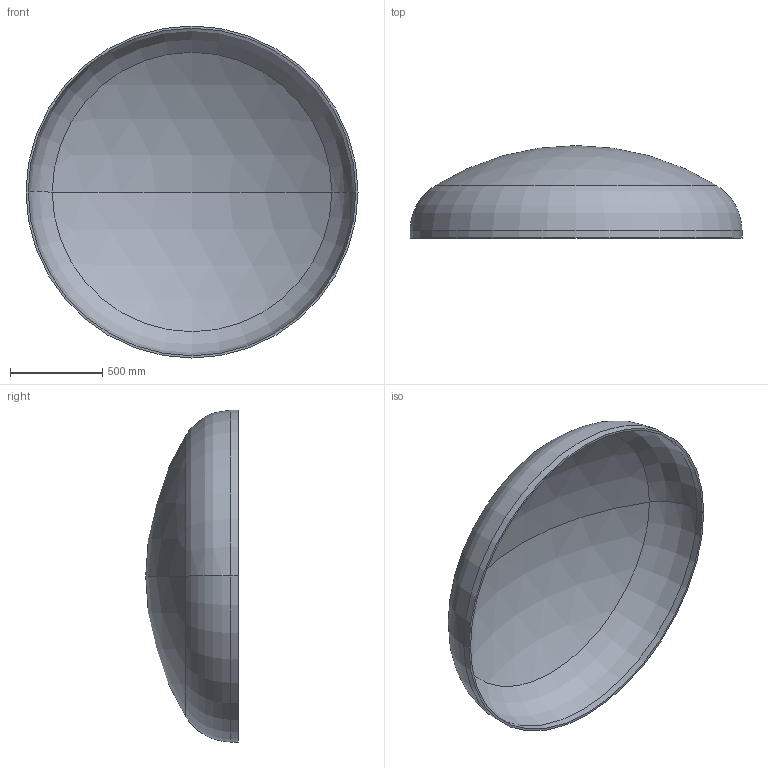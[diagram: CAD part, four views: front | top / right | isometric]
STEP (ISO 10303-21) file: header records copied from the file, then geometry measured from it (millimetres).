
FILE_DESCRIPTION (( 'STEP AP203' ), '1' );
FILE_NAME ('DIN 28013 Korbbogenform_-_Boden DIN 28013 - 1800 x 40 - I - s=12.step', '2016-07-01T12:17:06', ( '' ), ( '' ), 'SwSTEP 2.0', 'SolidWorks 2013', '' );
FILE_SCHEMA (( 'CONFIG_CONTROL_DESIGN' ));
Length unit declared in the file: millimetre
Products named in the file (1): DIN 28013 Korbbogenform_-_Boden DIN 28013 - 1800 x 40 - I - s=12
Bounding box: 1800 x 501.32 x 1800 mm (x, y, z)
Volume: 44553107.9 mm3; surface area: 7493222.7 mm2
Topology: 1 solids, 1 shells, 13 faces, 24 edges, 14 vertices
Faces by surface type: torus 4, cylinder 4, sphere 4, plane 1
Entity records: 407 total; most frequent: DIRECTION 72, CARTESIAN_POINT 52, ORIENTED_EDGE 48, AXIS2_PLACEMENT_3D 34, EDGE_CURVE 24, CIRCLE 20, EDGE_LOOP 14, VERTEX_POINT 14
